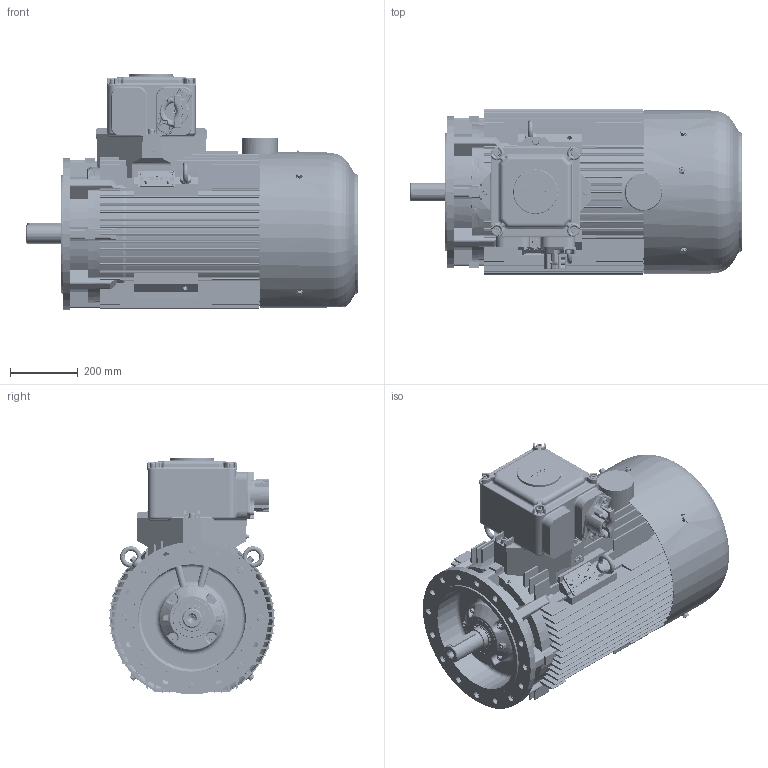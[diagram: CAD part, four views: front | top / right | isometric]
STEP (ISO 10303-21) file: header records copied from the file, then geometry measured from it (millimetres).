
FILE_DESCRIPTION(/* description */ ('Unknown'),/* implementation_level */ '2;1');
FILE_NAME(/* name */ 'Silnik EcSTKe225 M2 - wykonanie OUTSIDE !',/* time_stamp */ '2021-12-23T14:07:24+01:00',/* author */ ('Unknown'),/* organization */ ('Unknown'),/* preprocessor_version */ 'ST-DEVELOPER v16.7',/* originating_system */ 'DEX',/* authorisation */ $);
FILE_SCHEMA (('AUTOMOTIVE_DESIGN {1 0 10303 214 3 1 1}'));
Products named in the file (1): Silnik EcSTKe225 M2 - wykonanie OUTSIDE !
Bounding box: 979.13 x 489.83 x 698.8 mm (x, y, z)
Volume: 30458181.8 mm3; surface area: 6723395 mm2
Topology: 4 solids, 75 shells, 8245 faces, 22629 edges, 14582 vertices
Faces by surface type: plane 5363, cylinder 1666, torus 375, bspline 371, cone 360, sphere 110
Full cylindrical faces by diameter (mm): 1.2 x4, 1.6 x2, 2.013 x1, 2.459 x3, 2.5 x2, 3 x6, 3.1 x4, 3.2 x2, 3.4 x6, 4.5 x1, 4.773 x1, 4.917 x4, 5 x3, 6 x3, 6.2 x14, 6.3 x2, 6.4 x2, 6.466 x4, 6.5 x1, 6.647 x6, 8 x9, 8.16 x4, 8.8 x1, 8.917 x4, 9 x4, 9.853 x24, 10 x20, 10.106 x27, 10.5 x4, 12 x52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
Entity records: 331600 total; most frequent: CARTESIAN_POINT 70984, ORIENTED_EDGE 42540, DIRECTION 39845, EDGE_CURVE 21270, LINE 15237, VECTOR 15237, VERTEX_POINT 14134, AXIS2_PLACEMENT_3D 12304
